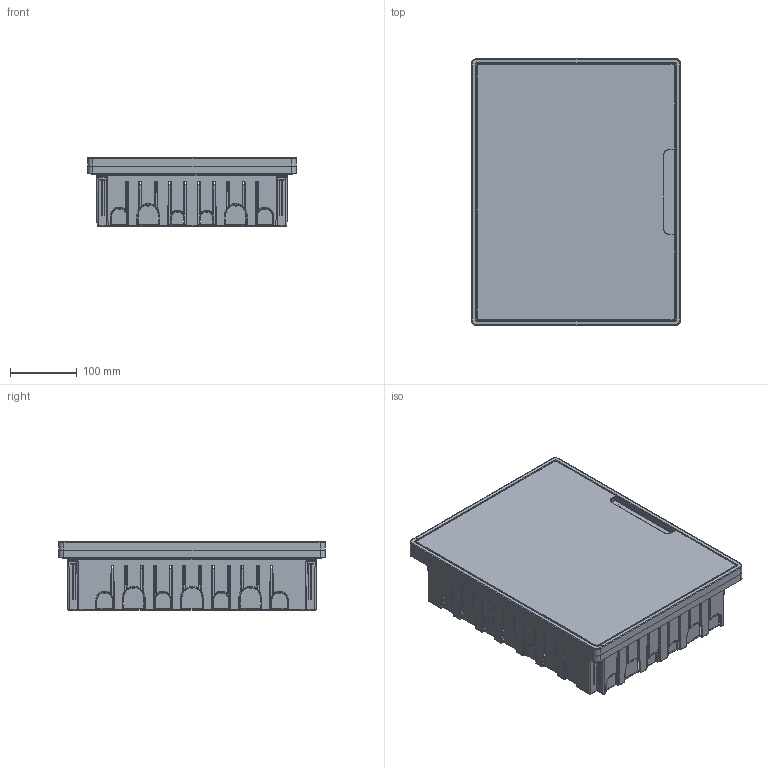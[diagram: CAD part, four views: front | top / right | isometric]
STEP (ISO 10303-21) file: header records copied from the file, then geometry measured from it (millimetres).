
FILE_DESCRIPTION (( 'STEP AP203' ), '1' );
FILE_NAME ('F24B1BD 糂琲籵褌隆 24.STEP', '2025-10-13T07:29:47', ( '' ), ( '' ), 'SwSTEP 2.0', 'SolidWorks 2022', '' );
FILE_SCHEMA (( 'CONFIG_CONTROL_DESIGN' ));
Products named in the file (6): TPA.08.0164.00.02.0 simple; TPA.08.0104.00.04.0 simple; F24B1BD встраиваемый 24; TPA.08.0164.00.01.0 simple; RB.2992.00.00.0 simple_-01; TPA.08.0104.00.05.0 simple
Assembly tree (7 placements, depth 2):
  F24B1BD встраиваемый 24
    TPA.08.0164.00.01.0 simple
    TPA.08.0164.00.02.0 simple  x2
    TPA.08.0104.00.04.0 simple
    TPA.08.0104.00.05.0 simple
    RB.2992.00.00.0 simple_-01  x2
Bounding box: 311.57 x 398.57 x 102.3 mm (x, y, z)
Volume: 1762357.9 mm3; surface area: 1158930.7 mm2
Topology: 7 solids, 53 shells, 6417 faces, 16748 edges, 10295 vertices
Faces by surface type: plane 2335, cylinder 2285, bspline 1097, sphere 294, torus 245, cone 161
Full cylindrical faces by diameter (mm): 3 x4, 4 x4, 4.66 x4, 4.8 x2, 5.7 x2, 9 x4
Entity records: 263361 total; most frequent: CARTESIAN_POINT 138992, ORIENTED_EDGE 28946, DIRECTION 21486, EDGE_CURVE 14473, VERTEX_POINT 8964, VECTOR 7500, LINE 7500, AXIS2_PLACEMENT_3D 6993
